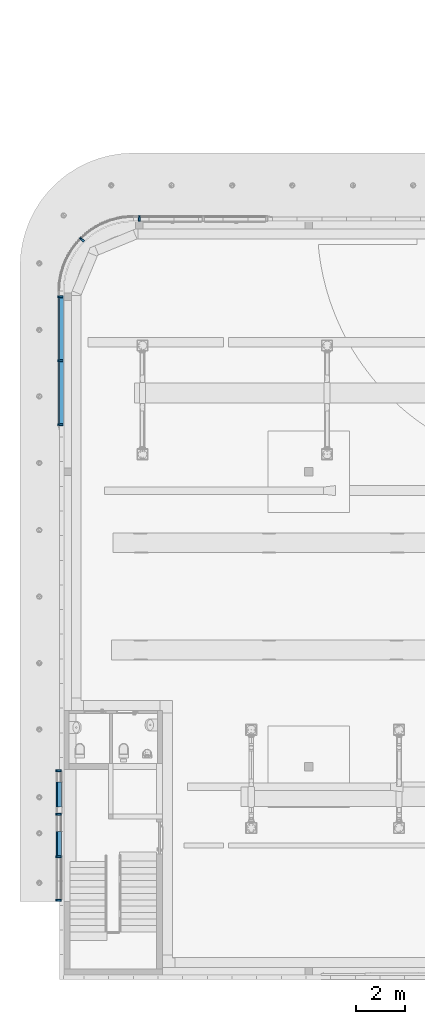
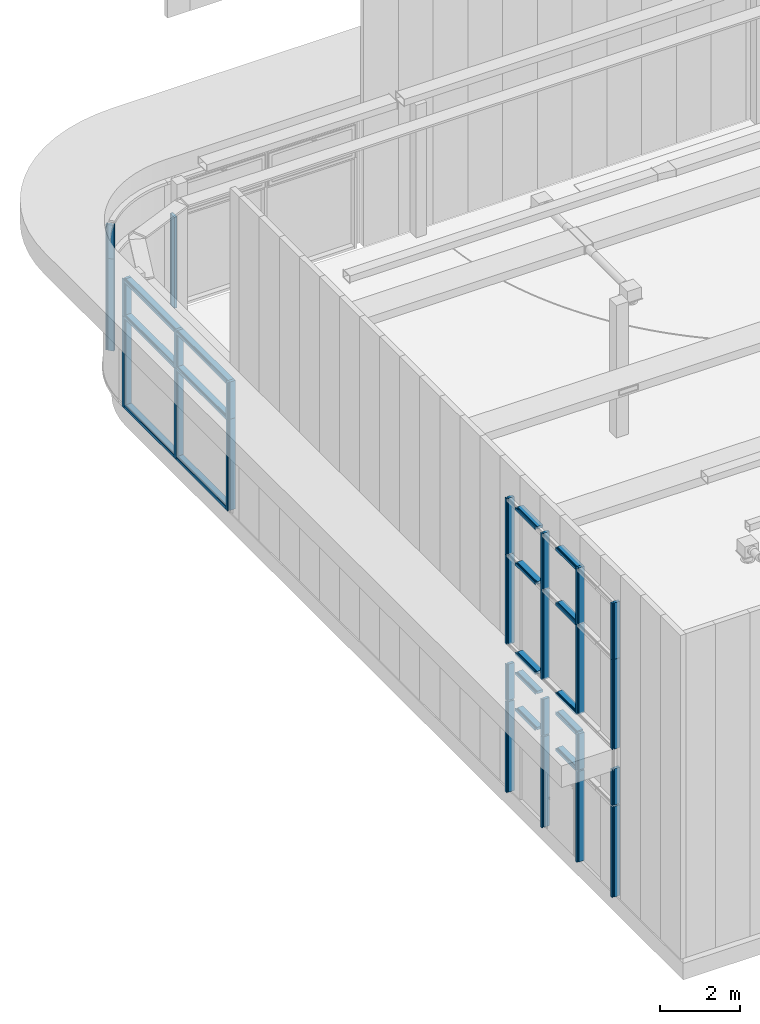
# One storey, part 65 of 302: 41 members, 4 elements without a shape of their own.
"""IFC2X3 building model written with IfcOpenShell, lengths in metres."""

from ifc_helpers import new_model, entity, si_unit, converted_unit, derived_unit, direction, frame, origin, place, context, subcontext, project, spatial, polyline, outline, extrude, source, transform, mapped, material, type_object, type_shapes, element, aggregate, save


model = new_model("IFC2X3")

# Units and contexts
model_context = context("Model", 3, precision=1e-05, world=origin(), true_north=direction((6.12303176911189e-17, 1.0)))
body_context = subcontext(model_context, "Body", "Model", "MODEL_VIEW")
ifc_project = project(units=[si_unit("LENGTHUNIT", "METRE"), si_unit("AREAUNIT", "SQUARE_METRE"), si_unit("VOLUMEUNIT", "CUBIC_METRE"), converted_unit("PLANEANGLEUNIT", "DEGREE", entity("IfcRatioMeasure", 0.0174532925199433), si_unit("PLANEANGLEUNIT", "RADIAN"), dimensions=[0, 0, 0, 0, 0, 0, 0]), si_unit("MASSUNIT", "GRAM", prefix="KILO"), derived_unit("MASSDENSITYUNIT", [(si_unit("MASSUNIT", "GRAM", prefix="KILO"), 1), (si_unit("LENGTHUNIT", "METRE"), -3)]), derived_unit("MOMENTOFINERTIAUNIT", [(si_unit("LENGTHUNIT", "METRE"), 4)]), si_unit("TIMEUNIT", "SECOND"), si_unit("FREQUENCYUNIT", "HERTZ"), si_unit("THERMODYNAMICTEMPERATUREUNIT", "DEGREE_CELSIUS"), derived_unit("THERMALTRANSMITTANCEUNIT", [(si_unit("MASSUNIT", "GRAM", prefix="KILO"), 1), (si_unit("THERMODYNAMICTEMPERATUREUNIT", "KELVIN"), -1), (si_unit("TIMEUNIT", "SECOND"), -3)]), derived_unit("VOLUMETRICFLOWRATEUNIT", [(si_unit("LENGTHUNIT", "METRE"), 3), (si_unit("TIMEUNIT", "SECOND"), -1)]), si_unit("ELECTRICCURRENTUNIT", "AMPERE"), si_unit("ELECTRICVOLTAGEUNIT", "VOLT"), si_unit("POWERUNIT", "WATT"), si_unit("FORCEUNIT", "NEWTON", prefix="KILO"), si_unit("ILLUMINANCEUNIT", "LUX"), si_unit("LUMINOUSFLUXUNIT", "LUMEN"), si_unit("LUMINOUSINTENSITYUNIT", "CANDELA"), derived_unit("USERDEFINED", [(si_unit("MASSUNIT", "GRAM", prefix="KILO"), -1), (si_unit("LENGTHUNIT", "METRE"), -2), (si_unit("TIMEUNIT", "SECOND"), 3), (si_unit("LUMINOUSFLUXUNIT", "LUMEN"), 1)]), derived_unit("LINEARVELOCITYUNIT", [(si_unit("LENGTHUNIT", "METRE"), 1), (si_unit("TIMEUNIT", "SECOND"), -1)]), si_unit("PRESSUREUNIT", "PASCAL"), derived_unit("USERDEFINED", [(si_unit("LENGTHUNIT", "METRE"), -2), (si_unit("MASSUNIT", "GRAM", prefix="KILO"), 1), (si_unit("TIMEUNIT", "SECOND"), -2)]), derived_unit("LINEARFORCEUNIT", [(si_unit("MASSUNIT", "GRAM", prefix="KILO"), 1), (si_unit("LENGTHUNIT", "METRE"), 1), (si_unit("TIMEUNIT", "SECOND"), -2), (si_unit("LENGTHUNIT", "METRE"), -1)]), derived_unit("PLANARFORCEUNIT", [(si_unit("MASSUNIT", "GRAM", prefix="KILO"), 1), (si_unit("LENGTHUNIT", "METRE"), 1), (si_unit("TIMEUNIT", "SECOND"), -2), (si_unit("LENGTHUNIT", "METRE"), -2)])], contexts=[model_context])

# Site, building, storey
site_placement = place(None, origin())
site = spatial("IfcSite", under=ifc_project, at=site_placement, Name="Default", CompositionType="ELEMENT")
building_placement = place(site_placement, origin())
building = spatial("IfcBuilding", under=site, at=building_placement, CompositionType="ELEMENT")
storey_placement = place(building_placement, frame((0.0, 0.0, -1.3)))
storey = spatial("IfcBuildingStorey", under=building, at=storey_placement, Name="00_EG", CompositionType="ELEMENT", Elevation=-1.3)

# Curtain wall, members
curtain_wall_type_1 = type_object("IfcCurtainWallType", Name="Fassade:Sandwichpaneele 16cm", PredefinedType="NOTDEFINED")
curtain_wall_1_placement = place(storey_placement, frame((0.0, 0.0, 1.3)))
curtain_wall_1 = element("IfcCurtainWall", 1, at=curtain_wall_1_placement, inside=storey, type_object=curtain_wall_type_1, Name="Fassade:Sandwichpaneele 16cm", ObjectType="Fassade:Sandwichpaneele 16cm")
ifc_material = material(Name="Prepainted_Steel-ArcelorMittal_Construction_HAIRULTRA-35-CORAL-4309-[RAL_3000]")
member_type_1 = type_object("IfcMemberType", Name="Rectangular Mullion:Fassadenrahmen Typ 1", PredefinedType="MULLION", material=ifc_material)
shared_shape_1 = source(origin(), body_context, "Body", "SweptSolid", [
    extrude(outline(polyline([(-0.155, -0.04), (0.00499999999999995, -0.04), (0.00499999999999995, -0.02), (0.04, -0.02), (0.04, -0.04), (0.065, -0.04), (0.065, 0.04), (0.04, 0.04), (0.04, 0.02), (0.00499999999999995, 0.02), (0.00499999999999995, 0.04), (-0.155, 0.04), (-0.155, -0.04)])), frame((0.0, -0.155, -2.73), z_axis=(0.0, 0.0, 1.0), x_axis=(0.0, -1.0, 0.0)), (0.0, 0.0, 1.0), 2.73),
])
type_shapes(member_type_1, [shared_shape_1])
member_1_placement = place(storey_placement, frame((-266.760111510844, 23.283088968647, 5.77), z_axis=(0.0, 0.0, -1.0), x_axis=(0.0, 1.0, 0.0)))
member_1 = element("IfcMember", 2, at=member_1_placement, type_object=member_type_1, material=ifc_material, Name="Rectangular Mullion:Fassadenrahmen Typ 1", ObjectType="Rectangular Mullion:Fassadenrahmen Typ 1", context=body_context, shape_type="MappedRepresentation", body=[
    mapped(shared_shape_1, transform((0.0, 0.0, 0.0), scale=1.0)),
])
member_2_placement = place(storey_placement, frame((-266.760111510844, 18.023088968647, 5.77), z_axis=(0.0, 0.0, -1.0), x_axis=(0.0, 1.0, 0.0)))
member_2 = element("IfcMember", 3, at=member_2_placement, type_object=member_type_1, material=ifc_material, Name="Rectangular Mullion:Fassadenrahmen Typ 1", ObjectType="Rectangular Mullion:Fassadenrahmen Typ 1", context=body_context, shape_type="MappedRepresentation", body=[
    mapped(shared_shape_1, transform((0.0, 0.0, 0.0), scale=1.0)),
])
member_3_placement = place(storey_placement, frame((-266.760111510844, 21.5230889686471, 5.77), z_axis=(0.0, 0.0, -1.0), x_axis=(0.0, 1.0, 0.0)))
member_3 = element("IfcMember", 4, at=member_3_placement, type_object=member_type_1, material=ifc_material, Name="Rectangular Mullion:Fassadenrahmen Typ 1", ObjectType="Rectangular Mullion:Fassadenrahmen Typ 1", context=body_context, shape_type="MappedRepresentation", body=[
    mapped(shared_shape_1, transform((0.0, 0.0, 0.0), scale=1.0)),
])
member_4_placement = place(storey_placement, frame((-266.760111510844, 19.7830889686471, 5.77), z_axis=(0.0, 0.0, -1.0), x_axis=(0.0, 1.0, 0.0)))
member_4 = element("IfcMember", 5, at=member_4_placement, type_object=member_type_1, material=ifc_material, Name="Rectangular Mullion:Fassadenrahmen Typ 1", ObjectType="Rectangular Mullion:Fassadenrahmen Typ 1", context=body_context, shape_type="MappedRepresentation", body=[
    mapped(shared_shape_1, transform((0.0, 0.0, 0.0), scale=1.0)),
])
member_type_2 = type_object("IfcMemberType", Name="Rectangular Mullion:Fassadenrahmen Typ 1", PredefinedType="MULLION", material=ifc_material)
shared_shape_2 = source(origin(), body_context, "Body", "SweptSolid", [
    extrude(outline(polyline([(-0.155, -0.04), (0.00499999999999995, -0.04), (0.00499999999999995, -0.02), (0.04, -0.02), (0.04, -0.04), (0.065, -0.04), (0.065, 0.04), (0.04, 0.04), (0.04, 0.02), (0.00499999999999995, 0.02), (0.00499999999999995, 0.04), (-0.155, 0.04), (-0.155, -0.04)])), frame((0.0, -0.155, -1.1), z_axis=(0.0, 0.0, 1.0), x_axis=(0.0, -1.0, 0.0)), (0.0, 0.0, 1.0), 1.1),
])
type_shapes(member_type_2, [shared_shape_2])
member_5_placement = place(storey_placement, frame((-266.760111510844, 23.283088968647, 4.07), z_axis=(0.0, 0.0, -1.0), x_axis=(0.0, 1.0, 0.0)))
member_5 = element("IfcMember", 6, at=member_5_placement, type_object=member_type_2, material=ifc_material, Name="Rectangular Mullion:Fassadenrahmen Typ 1", ObjectType="Rectangular Mullion:Fassadenrahmen Typ 1", context=body_context, shape_type="MappedRepresentation", body=[
    mapped(shared_shape_2, transform((0.0, 0.0, 0.0), scale=1.0)),
])
member_6_placement = place(storey_placement, frame((-266.760111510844, 18.023088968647, 4.07), z_axis=(0.0, 0.0, -1.0), x_axis=(0.0, 1.0, 0.0)))
member_6 = element("IfcMember", 7, at=member_6_placement, type_object=member_type_2, material=ifc_material, Name="Rectangular Mullion:Fassadenrahmen Typ 1", ObjectType="Rectangular Mullion:Fassadenrahmen Typ 1", context=body_context, shape_type="MappedRepresentation", body=[
    mapped(shared_shape_2, transform((0.0, 0.0, 0.0), scale=1.0)),
])
member_7_placement = place(storey_placement, frame((-266.760111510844, 21.5230889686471, 4.07), z_axis=(0.0, 0.0, -1.0), x_axis=(0.0, 1.0, 0.0)))
member_7 = element("IfcMember", 8, at=member_7_placement, type_object=member_type_2, material=ifc_material, Name="Rectangular Mullion:Fassadenrahmen Typ 1", ObjectType="Rectangular Mullion:Fassadenrahmen Typ 1", context=body_context, shape_type="MappedRepresentation", body=[
    mapped(shared_shape_2, transform((0.0, 0.0, 0.0), scale=1.0)),
])
member_8_placement = place(storey_placement, frame((-266.760111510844, 19.7830889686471, 4.07), z_axis=(0.0, 0.0, -1.0), x_axis=(0.0, 1.0, 0.0)))
member_8 = element("IfcMember", 9, at=member_8_placement, type_object=member_type_2, material=ifc_material, Name="Rectangular Mullion:Fassadenrahmen Typ 1", ObjectType="Rectangular Mullion:Fassadenrahmen Typ 1", context=body_context, shape_type="MappedRepresentation", body=[
    mapped(shared_shape_2, transform((0.0, 0.0, 0.0), scale=1.0)),
])
member_type_3 = type_object("IfcMemberType", Name="Rectangular Mullion:Fassadenrahmen Typ 1", PredefinedType="MULLION", material=ifc_material)
shared_shape_3 = source(origin(), body_context, "Body", "SweptSolid", [
    extrude(outline(polyline([(-0.155, -0.04), (0.00499999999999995, -0.04), (0.00499999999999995, -0.02), (0.04, -0.02), (0.04, -0.04), (0.065, -0.04), (0.065, 0.04), (0.04, 0.04), (0.04, 0.02), (0.00499999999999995, 0.02), (0.00499999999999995, 0.04), (-0.155, 0.04), (-0.155, -0.04)])), frame((0.0, -0.155, -1.72000000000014), z_axis=(0.0, 0.0, 1.0), x_axis=(0.0, -1.0, 0.0)), (0.0, 0.0, 1.0), 1.72000000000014),
])
type_shapes(member_type_3, [shared_shape_3])
member_9_placement = place(storey_placement, frame((-266.760111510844, 23.283088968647, 8.5), z_axis=(0.0, 0.0, -1.0), x_axis=(0.0, 1.0, 0.0)))
member_9 = element("IfcMember", 10, at=member_9_placement, type_object=member_type_3, material=ifc_material, Name="Rectangular Mullion:Fassadenrahmen Typ 1", ObjectType="Rectangular Mullion:Fassadenrahmen Typ 1", context=body_context, shape_type="MappedRepresentation", body=[
    mapped(shared_shape_3, transform((0.0, 0.0, 0.0), scale=1.0)),
])
member_10_placement = place(storey_placement, frame((-266.760111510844, 18.023088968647, 8.5), z_axis=(0.0, 0.0, -1.0), x_axis=(0.0, 1.0, 0.0)))
member_10 = element("IfcMember", 11, at=member_10_placement, type_object=member_type_3, material=ifc_material, Name="Rectangular Mullion:Fassadenrahmen Typ 1", ObjectType="Rectangular Mullion:Fassadenrahmen Typ 1", context=body_context, shape_type="MappedRepresentation", body=[
    mapped(shared_shape_3, transform((0.0, 0.0, 0.0), scale=1.0)),
])
member_11_placement = place(storey_placement, frame((-266.760111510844, 21.5230889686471, 8.5), z_axis=(0.0, 0.0, -1.0), x_axis=(0.0, 1.0, 0.0)))
member_11 = element("IfcMember", 12, at=member_11_placement, type_object=member_type_3, material=ifc_material, Name="Rectangular Mullion:Fassadenrahmen Typ 1", ObjectType="Rectangular Mullion:Fassadenrahmen Typ 1", context=body_context, shape_type="MappedRepresentation", body=[
    mapped(shared_shape_3, transform((0.0, 0.0, 0.0), scale=1.0)),
])
member_12_placement = place(storey_placement, frame((-266.760111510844, 19.7830889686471, 8.5), z_axis=(0.0, 0.0, -1.0), x_axis=(0.0, 1.0, 0.0)))
member_12 = element("IfcMember", 13, at=member_12_placement, type_object=member_type_3, material=ifc_material, Name="Rectangular Mullion:Fassadenrahmen Typ 1", ObjectType="Rectangular Mullion:Fassadenrahmen Typ 1", context=body_context, shape_type="MappedRepresentation", body=[
    mapped(shared_shape_3, transform((0.0, 0.0, 0.0), scale=1.0)),
])
member_type_4 = type_object("IfcMemberType", Name="Rectangular Mullion:Fassadenrahmen Typ 1", PredefinedType="MULLION", material=ifc_material)
shared_shape_4 = source(origin(), body_context, "Body", "SweptSolid", [
    extrude(outline(polyline([(-0.155, -0.04), (0.00499999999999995, -0.04), (0.00499999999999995, -0.02), (0.04, -0.02), (0.04, -0.04), (0.065, -0.04), (0.065, 0.04), (0.04, 0.04), (0.04, 0.02), (0.00499999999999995, 0.02), (0.00499999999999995, 0.04), (-0.155, 0.04), (-0.155, -0.04)])), frame((0.0, -0.155, -2.76), z_axis=(0.0, 0.0, 1.0), x_axis=(0.0, -1.0, 0.0)), (0.0, 0.0, 1.0), 2.75999999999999),
])
type_shapes(member_type_4, [shared_shape_4])
member_13_placement = place(storey_placement, frame((-266.760111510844, 23.283088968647, 1.27), z_axis=(0.0, 0.0, -1.0), x_axis=(0.0, 1.0, 0.0)))
member_13 = element("IfcMember", 14, at=member_13_placement, type_object=member_type_4, material=ifc_material, Name="Rectangular Mullion:Fassadenrahmen Typ 1", ObjectType="Rectangular Mullion:Fassadenrahmen Typ 1", context=body_context, shape_type="MappedRepresentation", body=[
    mapped(shared_shape_4, transform((0.0, 0.0, 0.0), scale=1.0)),
])
member_14_placement = place(storey_placement, frame((-266.760111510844, 18.023088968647, 1.27), z_axis=(0.0, 0.0, -1.0), x_axis=(0.0, 1.0, 0.0)))
member_14 = element("IfcMember", 15, at=member_14_placement, type_object=member_type_4, material=ifc_material, Name="Rectangular Mullion:Fassadenrahmen Typ 1", ObjectType="Rectangular Mullion:Fassadenrahmen Typ 1", context=body_context, shape_type="MappedRepresentation", body=[
    mapped(shared_shape_4, transform((0.0, 0.0, 0.0), scale=1.0)),
])
member_15_placement = place(storey_placement, frame((-266.760111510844, 21.5230889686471, 1.27), z_axis=(0.0, 0.0, -1.0), x_axis=(0.0, 1.0, 0.0)))
member_15 = element("IfcMember", 16, at=member_15_placement, type_object=member_type_4, material=ifc_material, Name="Rectangular Mullion:Fassadenrahmen Typ 1", ObjectType="Rectangular Mullion:Fassadenrahmen Typ 1", context=body_context, shape_type="MappedRepresentation", body=[
    mapped(shared_shape_4, transform((0.0, 0.0, 0.0), scale=1.0)),
])
member_16_placement = place(storey_placement, frame((-266.760111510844, 19.7830889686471, 1.27), z_axis=(0.0, 0.0, -1.0), x_axis=(0.0, 1.0, 0.0)))
member_16 = element("IfcMember", 17, at=member_16_placement, type_object=member_type_4, material=ifc_material, Name="Rectangular Mullion:Fassadenrahmen Typ 1", ObjectType="Rectangular Mullion:Fassadenrahmen Typ 1", context=body_context, shape_type="MappedRepresentation", body=[
    mapped(shared_shape_4, transform((0.0, 0.0, 0.0), scale=1.0)),
])
member_type_5 = type_object("IfcMemberType", Name="Rectangular Mullion:Fassadenrahmen Typ 1", PredefinedType="MULLION", material=ifc_material)
shared_shape_5 = source(origin(), body_context, "Body", "SweptSolid", [
    extrude(outline(polyline([(-0.155, -0.04), (0.00499999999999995, -0.04), (0.00499999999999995, -0.02), (0.04, -0.02), (0.04, -0.04), (0.065, -0.04), (0.065, 0.04), (0.04, 0.04), (0.04, 0.02), (0.00499999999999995, 0.02), (0.00499999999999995, 0.04), (-0.155, 0.04), (-0.155, -0.04)])), frame((0.0, -0.155, -1.0), z_axis=(0.0, 0.0, 1.0), x_axis=(0.0, -1.0, 0.0)), (0.0, 0.0, 1.0), 0.999999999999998),
])
type_shapes(member_type_5, [shared_shape_5])
member_17_placement = place(storey_placement, frame((-266.760111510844, 22.8180889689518, 10.18), z_axis=(0.0, 1.0, 0.0), x_axis=(0.0, 0.0, 1.0)))
member_17 = element("IfcMember", 18, at=member_17_placement, type_object=member_type_5, material=ifc_material, Name="Rectangular Mullion:Fassadenrahmen Typ 1", ObjectType="Rectangular Mullion:Fassadenrahmen Typ 1", context=body_context, shape_type="MappedRepresentation", body=[
    mapped(shared_shape_5, transform((0.0, 0.0, 0.0), scale=1.0)),
])
member_18_placement = place(storey_placement, frame((-266.760111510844, 22.8180889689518, 8.5), z_axis=(0.0, 1.0, 0.0), x_axis=(0.0, 0.0, 1.0)))
member_18 = element("IfcMember", 19, at=member_18_placement, type_object=member_type_5, material=ifc_material, Name="Rectangular Mullion:Fassadenrahmen Typ 1", ObjectType="Rectangular Mullion:Fassadenrahmen Typ 1", context=body_context, shape_type="MappedRepresentation", body=[
    mapped(shared_shape_5, transform((0.0, 0.0, 0.0), scale=1.0)),
])
member_19_placement = place(storey_placement, frame((-266.760111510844, 22.8180889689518, 5.77), z_axis=(0.0, 1.0, 0.0), x_axis=(0.0, 0.0, 1.0)))
member_19 = element("IfcMember", 20, at=member_19_placement, type_object=member_type_5, material=ifc_material, Name="Rectangular Mullion:Fassadenrahmen Typ 1", ObjectType="Rectangular Mullion:Fassadenrahmen Typ 1", context=body_context, shape_type="MappedRepresentation", body=[
    mapped(shared_shape_5, transform((0.0, 0.0, 0.0), scale=1.0)),
])
member_20_placement = place(storey_placement, frame((-266.760111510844, 22.8180889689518, 5.17), z_axis=(0.0, 1.0, 0.0), x_axis=(0.0, 0.0, 1.0)))
member_20 = element("IfcMember", 21, at=member_20_placement, type_object=member_type_5, material=ifc_material, Name="Rectangular Mullion:Fassadenrahmen Typ 1", ObjectType="Rectangular Mullion:Fassadenrahmen Typ 1", context=body_context, shape_type="MappedRepresentation", body=[
    mapped(shared_shape_5, transform((0.0, 0.0, 0.0), scale=1.0)),
])
member_21_placement = place(storey_placement, frame((-266.760111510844, 22.8180889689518, 4.07), z_axis=(0.0, 1.0, 0.0), x_axis=(0.0, 0.0, 1.0)))
member_21 = element("IfcMember", 22, at=member_21_placement, type_object=member_type_5, material=ifc_material, Name="Rectangular Mullion:Fassadenrahmen Typ 1", ObjectType="Rectangular Mullion:Fassadenrahmen Typ 1", context=body_context, shape_type="MappedRepresentation", body=[
    mapped(shared_shape_5, transform((0.0, 0.0, 0.0), scale=1.0)),
])
member_type_6 = type_object("IfcMemberType", Name="Rectangular Mullion:Fassadenrahmen Typ 1", PredefinedType="MULLION", material=ifc_material)
shared_shape_6 = source(origin(), body_context, "Body", "SweptSolid", [
    extrude(outline(polyline([(-0.155, -0.04), (0.00499999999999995, -0.04), (0.00499999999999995, -0.02), (0.04, -0.02), (0.04, -0.04), (0.065, -0.04), (0.065, 0.04), (0.04, 0.04), (0.04, 0.02), (0.00499999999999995, 0.02), (0.00499999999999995, 0.04), (-0.155, 0.04), (-0.155, -0.04)])), frame((0.0, -0.155, -1.0), z_axis=(0.0, 0.0, 1.0), x_axis=(0.0, -1.0, 0.0)), (0.0, 0.0, 1.0), 1.0),
])
type_shapes(member_type_6, [shared_shape_6])
member_22_placement = place(storey_placement, frame((-266.760111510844, 20.8180889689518, 10.18), z_axis=(0.0, 1.0, 0.0), x_axis=(0.0, 0.0, 1.0)))
member_22 = element("IfcMember", 23, at=member_22_placement, type_object=member_type_6, material=ifc_material, Name="Rectangular Mullion:Fassadenrahmen Typ 1", ObjectType="Rectangular Mullion:Fassadenrahmen Typ 1", context=body_context, shape_type="MappedRepresentation", body=[
    mapped(shared_shape_6, transform((0.0, 0.0, 0.0), scale=1.0)),
])
member_23_placement = place(storey_placement, frame((-266.760111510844, 20.8180889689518, 8.5), z_axis=(0.0, 1.0, 0.0), x_axis=(0.0, 0.0, 1.0)))
member_23 = element("IfcMember", 24, at=member_23_placement, type_object=member_type_6, material=ifc_material, Name="Rectangular Mullion:Fassadenrahmen Typ 1", ObjectType="Rectangular Mullion:Fassadenrahmen Typ 1", context=body_context, shape_type="MappedRepresentation", body=[
    mapped(shared_shape_6, transform((0.0, 0.0, 0.0), scale=1.0)),
])
member_24_placement = place(storey_placement, frame((-266.760111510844, 20.8180889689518, 5.77), z_axis=(0.0, 1.0, 0.0), x_axis=(0.0, 0.0, 1.0)))
member_24 = element("IfcMember", 25, at=member_24_placement, type_object=member_type_6, material=ifc_material, Name="Rectangular Mullion:Fassadenrahmen Typ 1", ObjectType="Rectangular Mullion:Fassadenrahmen Typ 1", context=body_context, shape_type="MappedRepresentation", body=[
    mapped(shared_shape_6, transform((0.0, 0.0, 0.0), scale=1.0)),
])
member_25_placement = place(storey_placement, frame((-266.760111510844, 20.8180889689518, 5.17), z_axis=(0.0, 1.0, 0.0), x_axis=(0.0, 0.0, 1.0)))
member_25 = element("IfcMember", 26, at=member_25_placement, type_object=member_type_6, material=ifc_material, Name="Rectangular Mullion:Fassadenrahmen Typ 1", ObjectType="Rectangular Mullion:Fassadenrahmen Typ 1", context=body_context, shape_type="MappedRepresentation", body=[
    mapped(shared_shape_6, transform((0.0, 0.0, 0.0), scale=1.0)),
])
member_26_placement = place(storey_placement, frame((-266.760111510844, 20.8180889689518, 4.07), z_axis=(0.0, 1.0, 0.0), x_axis=(0.0, 0.0, 1.0)))
member_26 = element("IfcMember", 27, at=member_26_placement, type_object=member_type_6, material=ifc_material, Name="Rectangular Mullion:Fassadenrahmen Typ 1", ObjectType="Rectangular Mullion:Fassadenrahmen Typ 1", context=body_context, shape_type="MappedRepresentation", body=[
    mapped(shared_shape_6, transform((0.0, 0.0, 0.0), scale=1.0)),
])
aggregate(curtain_wall_1, [member_1, member_5, member_9, member_13, member_17, member_22, member_18, member_23, member_2, member_6, member_10, member_14, member_19, member_24, member_20, member_25, member_21, member_3, member_7, member_11, member_15, member_4, member_8, member_12, member_16, member_26])

curtain_wall_type_2 = type_object("IfcCurtainWallType", Name="Fassade:Glasfassade", PredefinedType="NOTDEFINED")
curtain_wall_2_placement = place(storey_placement, frame((0.0, 0.0, 1.3)))
curtain_wall_2 = element("IfcCurtainWall", 28, at=curtain_wall_2_placement, inside=storey, type_object=curtain_wall_type_2, Name="Fassade:Glasfassade", ObjectType="Fassade:Glasfassade")
member_type_7 = type_object("IfcMemberType", Name="Rectangular Mullion:Fassadenrahmen Typ 1", PredefinedType="MULLION", material=ifc_material)
shared_shape_7 = source(origin(), body_context, "Body", "SweptSolid", [
    extrude(outline(polyline([(-0.065, -0.04), (-0.04, -0.04), (-0.04, -0.02), (-0.00499999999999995, -0.02), (-0.00499999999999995, -0.04), (0.155, -0.04), (0.155, 0.04), (-0.00499999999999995, 0.04), (-0.00499999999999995, 0.02), (-0.04, 0.02), (-0.04, 0.04), (-0.065, 0.04), (-0.065, -0.04)])), frame((0.0, 0.155, -2.77000000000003), z_axis=(0.0, 0.0, 1.0), x_axis=(0.0, -1.0, 0.0)), (0.0, 0.0, 1.0), 2.77000000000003),
])
type_shapes(member_type_7, [shared_shape_7])
member_27_placement = place(storey_placement, frame((-266.680111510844, 42.5040911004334, 1.3), z_axis=(0.0, 0.0, -1.0), x_axis=(0.0, -1.0, 0.0)))
member_27 = element("IfcMember", 29, at=member_27_placement, type_object=member_type_7, material=ifc_material, Name="Rectangular Mullion:Fassadenrahmen Typ 1", ObjectType="Rectangular Mullion:Fassadenrahmen Typ 1", context=body_context, shape_type="MappedRepresentation", body=[
    mapped(shared_shape_7, transform((0.0, 0.0, 0.0), scale=1.0)),
])
member_28_placement = place(storey_placement, frame((-266.680111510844, 39.9140911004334, 1.3), z_axis=(0.0, 0.0, -1.0), x_axis=(0.0, -1.0, 0.0)))
member_28 = element("IfcMember", 30, at=member_28_placement, type_object=member_type_7, material=ifc_material, Name="Rectangular Mullion:Fassadenrahmen Typ 1", ObjectType="Rectangular Mullion:Fassadenrahmen Typ 1", context=body_context, shape_type="MappedRepresentation", body=[
    mapped(shared_shape_7, transform((0.0, 0.0, 0.0), scale=1.0)),
])
member_type_8 = type_object("IfcMemberType", Name="Rectangular Mullion:Fassadenrahmen Typ 1", PredefinedType="MULLION", material=ifc_material)
shared_shape_8 = source(origin(), body_context, "Body", "SweptSolid", [
    extrude(outline(polyline([(-0.065, -0.04), (-0.04, -0.04), (-0.04, -0.02), (-0.00499999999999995, -0.02), (-0.00499999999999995, -0.04), (0.155, -0.04), (0.155, 0.04), (-0.00499999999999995, 0.04), (-0.00499999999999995, 0.02), (-0.04, 0.02), (-0.04, 0.04), (-0.065, 0.04), (-0.065, -0.04)])), frame((-0.04, 0.155, -2.77000000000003), z_axis=(0.0, 0.0, 1.0), x_axis=(0.0, -1.0, 0.0)), (0.0, 0.0, 1.0), 2.77000000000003),
])
type_shapes(member_type_8, [shared_shape_8])
member_29_placement = place(storey_placement, frame((-266.680111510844, 37.2840911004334, 1.3), z_axis=(0.0, 0.0, -1.0), x_axis=(0.0, -1.0, 0.0)))
member_29 = element("IfcMember", 31, at=member_29_placement, type_object=member_type_8, material=ifc_material, Name="Rectangular Mullion:Fassadenrahmen Typ 1", ObjectType="Rectangular Mullion:Fassadenrahmen Typ 1", context=body_context, shape_type="MappedRepresentation", body=[
    mapped(shared_shape_8, transform((0.0, 0.0, 0.0), scale=1.0)),
])
member_type_9 = type_object("IfcMemberType", Name="Rectangular Mullion:Fassadenrahmen Typ 1", PredefinedType="MULLION", material=ifc_material)
shared_shape_9 = source(origin(), body_context, "Body", "SweptSolid", [
    extrude(outline(polyline([(-0.065, -0.04), (-0.04, -0.04), (-0.04, -0.02), (-0.00499999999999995, -0.02), (-0.00499999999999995, -0.04), (0.155, -0.04), (0.155, 0.04), (-0.00499999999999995, 0.04), (-0.00499999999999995, 0.02), (-0.04, 0.02), (-0.04, 0.04), (-0.065, 0.04), (-0.065, -0.04)])), frame((0.0, 0.155, -2.51), z_axis=(0.0, 0.0, 1.0), x_axis=(0.0, -1.0, 0.0)), (0.0, 0.0, 1.0), 2.51),
])
type_shapes(member_type_9, [shared_shape_9])
member_30_placement = place(storey_placement, frame((-266.680111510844, 39.9540911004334, 4.07000000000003), z_axis=(0.0, -1.0, 0.0), x_axis=(0.0, 0.0, 1.0)))
member_30 = element("IfcMember", 32, at=member_30_placement, type_object=member_type_9, material=ifc_material, Name="Rectangular Mullion:Fassadenrahmen Typ 1", ObjectType="Rectangular Mullion:Fassadenrahmen Typ 1", context=body_context, shape_type="MappedRepresentation", body=[
    mapped(shared_shape_9, transform((0.0, 0.0, 0.0), scale=1.0)),
])
member_31_placement = place(storey_placement, frame((-266.680111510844, 37.3640911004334, 4.07000000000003), z_axis=(0.0, -1.0, 0.0), x_axis=(0.0, 0.0, 1.0)))
member_31 = element("IfcMember", 33, at=member_31_placement, type_object=member_type_9, material=ifc_material, Name="Rectangular Mullion:Fassadenrahmen Typ 1", ObjectType="Rectangular Mullion:Fassadenrahmen Typ 1", context=body_context, shape_type="MappedRepresentation", body=[
    mapped(shared_shape_9, transform((0.0, 0.0, 0.0), scale=1.0)),
])
member_type_10 = type_object("IfcMemberType", Name="Rectangular Mullion:Fassadenrahmen Typ 1", PredefinedType="MULLION", material=ifc_material)
shared_shape_10 = source(origin(), body_context, "Body", "SweptSolid", [
    extrude(outline(polyline([(-0.065, -0.04), (-0.04, -0.04), (-0.04, -0.02), (-0.00499999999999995, -0.02), (-0.00499999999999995, -0.04), (0.155, -0.04), (0.155, 0.04), (-0.00499999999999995, 0.04), (-0.00499999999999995, 0.02), (-0.04, 0.02), (-0.04, 0.04), (-0.065, 0.04), (-0.065, -0.04)])), frame((-0.04, 0.155, -2.51), z_axis=(0.0, 0.0, 1.0), x_axis=(0.0, -1.0, 0.0)), (0.0, 0.0, 1.0), 2.51),
])
type_shapes(member_type_10, [shared_shape_10])
member_32_placement = place(storey_placement, frame((-266.680111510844, 39.9540911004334, 5.21), z_axis=(0.0, -1.0, 0.0), x_axis=(0.0, 0.0, 1.0)))
member_32 = element("IfcMember", 34, at=member_32_placement, type_object=member_type_10, material=ifc_material, Name="Rectangular Mullion:Fassadenrahmen Typ 1", ObjectType="Rectangular Mullion:Fassadenrahmen Typ 1", context=body_context, shape_type="MappedRepresentation", body=[
    mapped(shared_shape_10, transform((0.0, 0.0, 0.0), scale=1.0)),
])
member_33_placement = place(storey_placement, frame((-266.680111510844, 37.3640911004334, 5.21), z_axis=(0.0, -1.0, 0.0), x_axis=(0.0, 0.0, 1.0)))
member_33 = element("IfcMember", 35, at=member_33_placement, type_object=member_type_10, material=ifc_material, Name="Rectangular Mullion:Fassadenrahmen Typ 1", ObjectType="Rectangular Mullion:Fassadenrahmen Typ 1", context=body_context, shape_type="MappedRepresentation", body=[
    mapped(shared_shape_10, transform((0.0, 0.0, 0.0), scale=1.0)),
])
member_type_11 = type_object("IfcMemberType", Name="Rectangular Mullion:Fassadenrahmen Typ 1", PredefinedType="MULLION", material=ifc_material)
shared_shape_11 = source(origin(), body_context, "Body", "SweptSolid", [
    extrude(outline(polyline([(-0.0649999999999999, -0.04), (-0.04, -0.04), (-0.04, -0.02), (-0.00499999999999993, -0.02), (-0.00499999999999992, -0.04), (0.155, -0.0399999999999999), (0.155, 0.0400000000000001), (-0.00499999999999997, 0.04), (-0.00499999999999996, 0.02), (-0.04, 0.02), (-0.04, 0.04), (-0.065, 0.0399999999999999), (-0.0649999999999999, -0.04)])), frame((-0.04, 0.155, -2.51), z_axis=(0.0, 0.0, 1.0), x_axis=(0.0, -1.0, 0.0)), (0.0, 0.0, 1.0), 2.51),
])
type_shapes(member_type_11, [shared_shape_11])
member_34_placement = place(storey_placement, frame((-266.680111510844, 42.4640911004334, 1.3), z_axis=(0.0, 1.0, 0.0), x_axis=(0.0, 0.0, -1.0)))
member_34 = element("IfcMember", 36, at=member_34_placement, type_object=member_type_11, material=ifc_material, Name="Rectangular Mullion:Fassadenrahmen Typ 1", ObjectType="Rectangular Mullion:Fassadenrahmen Typ 1", context=body_context, shape_type="MappedRepresentation", body=[
    mapped(shared_shape_11, transform((0.0, 0.0, 0.0), scale=1.0)),
])
member_35_placement = place(storey_placement, frame((-266.680111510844, 39.8740911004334, 1.3), z_axis=(0.0, 1.0, 0.0), x_axis=(0.0, 0.0, -1.0)))
member_35 = element("IfcMember", 37, at=member_35_placement, type_object=member_type_11, material=ifc_material, Name="Rectangular Mullion:Fassadenrahmen Typ 1", ObjectType="Rectangular Mullion:Fassadenrahmen Typ 1", context=body_context, shape_type="MappedRepresentation", body=[
    mapped(shared_shape_11, transform((0.0, 0.0, 0.0), scale=1.0)),
])

# Curtain wall, member
curtain_wall_3_placement = place(storey_placement, frame((0.0, 0.0, 1.3)))
curtain_wall_3 = element("IfcCurtainWall", 38, at=curtain_wall_3_placement, inside=storey, type_object=curtain_wall_type_2, Name="Fassade:Glasfassade", ObjectType="Fassade:Glasfassade")
member_type_12 = type_object("IfcMemberType", Name="Rectangular Mullion:Fassadenrahmen Typ 1", PredefinedType="MULLION", material=ifc_material)
shared_shape_12 = source(origin(), body_context, "Body", "SweptSolid", [
    extrude(outline(polyline([(-0.155, -0.04), (0.00499999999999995, -0.04), (0.00499999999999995, -0.02), (0.04, -0.02), (0.04, -0.04), (0.065, -0.04), (0.065, 0.04), (0.04, 0.04), (0.04, 0.02), (0.00499999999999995, 0.02), (0.00499999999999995, 0.04), (-0.155, 0.04), (-0.155, -0.04)])), frame((0.0, -0.155, -2.76999999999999), z_axis=(0.0, 0.0, 1.0), x_axis=(0.0, -1.0, 0.0)), (0.0, 0.0, 1.0), 2.76999999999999),
])
type_shapes(member_type_12, [shared_shape_12])
member_36_placement = place(storey_placement, frame((-263.60611364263, 45.578088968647, 1.29999999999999), z_axis=(0.0, 0.0, -1.0), x_axis=(1.0, 0.0, 0.0)))
member_36 = element("IfcMember", 39, at=member_36_placement, type_object=member_type_12, material=ifc_material, Name="Rectangular Mullion:Fassadenrahmen Typ 1", ObjectType="Rectangular Mullion:Fassadenrahmen Typ 1", context=body_context, shape_type="MappedRepresentation", body=[
    mapped(shared_shape_12, transform((0.0, 0.0, 0.0), scale=1.0)),
])
aggregate(curtain_wall_3, [member_36])

# Member
member_type_13 = type_object("IfcMemberType", Name="Rectangular Mullion:Fassadenrahmen Typ 1", PredefinedType="MULLION", material=ifc_material)
shared_shape_13 = source(origin(), body_context, "Body", "SweptSolid", [
    extrude(outline(polyline([(-0.065, -0.04), (-0.04, -0.04), (-0.04, -0.02), (-0.00499999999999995, -0.02), (-0.00499999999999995, -0.04), (0.155, -0.04), (0.155, 0.04), (-0.00499999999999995, 0.04), (-0.00499999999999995, 0.02), (-0.04, 0.02), (-0.04, 0.04), (-0.065, 0.04), (-0.065, -0.04)])), frame((0.0, 0.155, -1.13999999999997), z_axis=(0.0, 0.0, 1.0), x_axis=(0.0, -1.0, 0.0)), (0.0, 0.0, 1.0), 1.13999999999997),
])
type_shapes(member_type_13, [shared_shape_13])
member_37_placement = place(storey_placement, frame((-266.680111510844, 42.5040911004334, 4.07000000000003), z_axis=(0.0, 0.0, -1.0), x_axis=(0.0, -1.0, 0.0)))
member_37 = element("IfcMember", 40, at=member_37_placement, type_object=member_type_13, material=ifc_material, Name="Rectangular Mullion:Fassadenrahmen Typ 1", ObjectType="Rectangular Mullion:Fassadenrahmen Typ 1", context=body_context, shape_type="MappedRepresentation", body=[
    mapped(shared_shape_13, transform((0.0, 0.0, 0.0), scale=1.0)),
])

member_38_placement = place(storey_placement, frame((-266.680111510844, 39.9140911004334, 4.07000000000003), z_axis=(0.0, 0.0, -1.0), x_axis=(0.0, -1.0, 0.0)))
member_38 = element("IfcMember", 41, at=member_38_placement, type_object=member_type_13, material=ifc_material, Name="Rectangular Mullion:Fassadenrahmen Typ 1", ObjectType="Rectangular Mullion:Fassadenrahmen Typ 1", context=body_context, shape_type="MappedRepresentation", body=[
    mapped(shared_shape_13, transform((0.0, 0.0, 0.0), scale=1.0)),
])

member_type_14 = type_object("IfcMemberType", Name="Rectangular Mullion:Fassadenrahmen Typ 1", PredefinedType="MULLION", material=ifc_material)
shared_shape_14 = source(origin(), body_context, "Body", "SweptSolid", [
    extrude(outline(polyline([(-0.065, -0.04), (-0.04, -0.04), (-0.04, -0.02), (-0.00499999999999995, -0.02), (-0.00499999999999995, -0.04), (0.155, -0.04), (0.155, 0.04), (-0.00499999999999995, 0.04), (-0.00499999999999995, 0.02), (-0.04, 0.02), (-0.04, 0.04), (-0.065, 0.04), (-0.065, -0.04)])), frame((-0.04, 0.155, -1.13999999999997), z_axis=(0.0, 0.0, 1.0), x_axis=(0.0, -1.0, 0.0)), (0.0, 0.0, 1.0), 1.13999999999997),
])
type_shapes(member_type_14, [shared_shape_14])
member_39_placement = place(storey_placement, frame((-266.680111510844, 37.2840911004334, 4.07000000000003), z_axis=(0.0, 0.0, -1.0), x_axis=(0.0, -1.0, 0.0)))
member_39 = element("IfcMember", 42, at=member_39_placement, type_object=member_type_14, material=ifc_material, Name="Rectangular Mullion:Fassadenrahmen Typ 1", ObjectType="Rectangular Mullion:Fassadenrahmen Typ 1", context=body_context, shape_type="MappedRepresentation", body=[
    mapped(shared_shape_14, transform((0.0, 0.0, 0.0), scale=1.0)),
])

aggregate(curtain_wall_2, [member_27, member_28, member_29, member_37, member_38, member_39, member_30, member_31, member_34, member_35, member_32, member_33])

# Curtain wall, members
curtain_wall_4_placement = place(storey_placement, frame((0.0, 0.0, 1.3)))
curtain_wall_4 = element("IfcCurtainWall", 43, at=curtain_wall_4_placement, inside=storey, type_object=curtain_wall_type_2, Name="Fassade:Glasfassade", ObjectType="Fassade:Glasfassade")
member_type_15 = type_object("IfcMemberType", Name="Rectangular Mullion:Fassadenrahmen Typ 1", PredefinedType="MULLION", material=ifc_material)
shared_shape_15 = source(origin(), body_context, "Body", "SweptSolid", [
    extrude(outline(polyline([(-0.154999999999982, -0.0399999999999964), (0.00500000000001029, -0.0399999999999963), (0.0050000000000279, -0.0199999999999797), (0.0400000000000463, -0.01999999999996), (0.0400000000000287, -0.0399999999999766), (0.0650000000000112, -0.0399999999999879), (0.0650000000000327, 0.0400000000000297), (0.0400000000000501, 0.040000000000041), (0.0400000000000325, 0.0200000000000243), (0.00500000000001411, 0.0200000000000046), (0.00500000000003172, 0.0400000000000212), (-0.154999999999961, 0.0400000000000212), (-0.154999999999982, -0.0399999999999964)])), frame((-265.957896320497, 44.8558737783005, 2.79999999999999), z_axis=(0.0, 0.0, 1.0), x_axis=(-0.70710678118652, 0.707106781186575, 0.0)), (0.0, 0.0, 1.0), 1.03),
])
type_shapes(member_type_15, [shared_shape_15])
member_40_placement = place(storey_placement, frame((0.0, 0.0, 1.3)))
member_40 = element("IfcMember", 44, at=member_40_placement, type_object=member_type_15, material=ifc_material, Name="Rectangular Mullion:Fassadenrahmen Typ 1", ObjectType="Rectangular Mullion:Fassadenrahmen Typ 1", context=body_context, shape_type="MappedRepresentation", body=[
    mapped(shared_shape_15, transform((0.0, 0.0, 0.0), scale=1.0)),
])
member_type_16 = type_object("IfcMemberType", Name="Rectangular Mullion:Fassadenrahmen Typ 1", PredefinedType="MULLION", material=ifc_material)
shared_shape_16 = source(origin(), body_context, "Body", "SweptSolid", [
    extrude(outline(polyline([(-0.065, -0.04), (-0.04, -0.04), (-0.04, -0.02), (-0.00499999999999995, -0.02), (-0.00499999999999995, -0.04), (0.155, -0.04), (0.155, 0.04), (-0.00499999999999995, 0.04), (-0.00499999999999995, 0.02), (-0.04, 0.02), (-0.04, 0.04), (-0.065, 0.04), (-0.065, -0.04)])), frame((0.0, 0.155, -2.79999999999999), z_axis=(0.0, 0.0, 1.0), x_axis=(0.0, -1.0, 0.0)), (0.0, 0.0, 1.0), 2.79999999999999),
])
type_shapes(member_type_16, [shared_shape_16])
member_41_placement = place(storey_placement, frame((-265.848294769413, 44.7462722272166, 1.3), z_axis=(0.0, 0.0, -1.0), x_axis=(-0.707106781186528, -0.707106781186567, 0.0)))
member_41 = element("IfcMember", 45, at=member_41_placement, type_object=member_type_16, material=ifc_material, Name="Rectangular Mullion:Fassadenrahmen Typ 1", ObjectType="Rectangular Mullion:Fassadenrahmen Typ 1", context=body_context, shape_type="MappedRepresentation", body=[
    mapped(shared_shape_16, transform((0.0, 0.0, 0.0), scale=1.0)),
])
aggregate(curtain_wall_4, [member_40, member_41])

save(model, "model.ifc")
